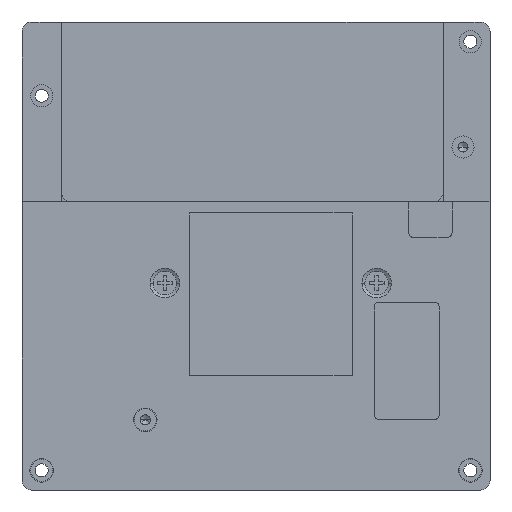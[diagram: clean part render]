
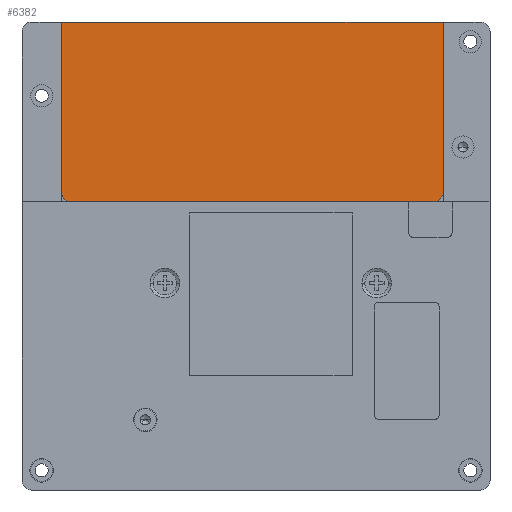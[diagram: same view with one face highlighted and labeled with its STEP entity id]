
A CAD part, front view. The second image highlights one B-rep face of the part: STEP entity #6382.
In plain terms, the highlighted planar face has unit normal (0, -1, 0).
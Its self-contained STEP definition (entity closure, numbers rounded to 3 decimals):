
#1875=DIRECTION('',(1.,0.,0.));
#1876=VECTOR('',#1875,77.5);
#1877=CARTESIAN_POINT('',(-39.5,6.,47.5));
#1878=LINE('',#1877,#1876);
#2449=CARTESIAN_POINT('',(-37.5,6.,13.));
#2450=DIRECTION('',(0.,-1.,0.));
#2451=DIRECTION('',(-1.,0.,0.));
#2452=AXIS2_PLACEMENT_3D('',#2449,#2450,#2451);
#2454=DIRECTION('',(0.,0.,1.));
#2455=VECTOR('',#2454,34.5);
#2456=CARTESIAN_POINT('',(-39.5,6.,13.));
#2457=LINE('',#2456,#2455);
#2458=DIRECTION('',(0.,0.,-1.));
#2459=VECTOR('',#2458,34.5);
#2460=CARTESIAN_POINT('',(38.,6.,47.5));
#2461=LINE('',#2460,#2459);
#2462=CARTESIAN_POINT('',(36.,6.,13.));
#2463=DIRECTION('',(0.,-1.,0.));
#2464=DIRECTION('',(0.,0.,-1.));
#2465=AXIS2_PLACEMENT_3D('',#2462,#2463,#2464);
#2467=DIRECTION('',(-1.,0.,0.));
#2468=VECTOR('',#2467,73.5);
#2469=CARTESIAN_POINT('',(36.,6.,11.));
#2470=LINE('',#2469,#2468);
#3251=CARTESIAN_POINT('',(-39.5,6.,13.));
#3252=CARTESIAN_POINT('',(-37.5,6.,11.));
#3253=VERTEX_POINT('',#3251);
#3254=VERTEX_POINT('',#3252);
#4096=CARTESIAN_POINT('',(-39.5,6.,47.5));
#4097=CARTESIAN_POINT('',(38.,6.,47.5));
#4098=VERTEX_POINT('',#4096);
#4099=VERTEX_POINT('',#4097);
#4104=CARTESIAN_POINT('',(36.,6.,11.));
#4105=CARTESIAN_POINT('',(38.,6.,13.));
#4106=VERTEX_POINT('',#4104);
#4107=VERTEX_POINT('',#4105);
#6367=CARTESIAN_POINT('',(0.,6.,0.));
#6368=DIRECTION('',(0.,1.,0.));
#6369=DIRECTION('',(1.,0.,0.));
#6370=AXIS2_PLACEMENT_3D('',#6367,#6368,#6369);
#6371=PLANE('',#6370);
#6372=ORIENTED_EDGE('',*,*,#6360,.F.);
#6373=ORIENTED_EDGE('',*,*,#6348,.T.);
#6374=ORIENTED_EDGE('',*,*,#6037,.T.);
#6375=ORIENTED_EDGE('',*,*,#6305,.T.);
#6377=ORIENTED_EDGE('',*,*,#6376,.F.);
#6379=ORIENTED_EDGE('',*,*,#6378,.T.);
#6380=EDGE_LOOP('',(#6372,#6373,#6374,#6375,#6377,#6379));
#6381=FACE_OUTER_BOUND('',#6380,.F.);
#6382=ADVANCED_FACE('',(#6381),#6371,.F.);
#2453=CIRCLE('',#2452,2.);
#2466=CIRCLE('',#2465,2.);
#6037=EDGE_CURVE('',#4098,#4099,#1878,.T.);
#6305=EDGE_CURVE('',#4099,#4107,#2461,.T.);
#6348=EDGE_CURVE('',#3253,#4098,#2457,.T.);
#6360=EDGE_CURVE('',#3253,#3254,#2453,.T.);
#6376=EDGE_CURVE('',#4106,#4107,#2466,.T.);
#6378=EDGE_CURVE('',#4106,#3254,#2470,.T.);
